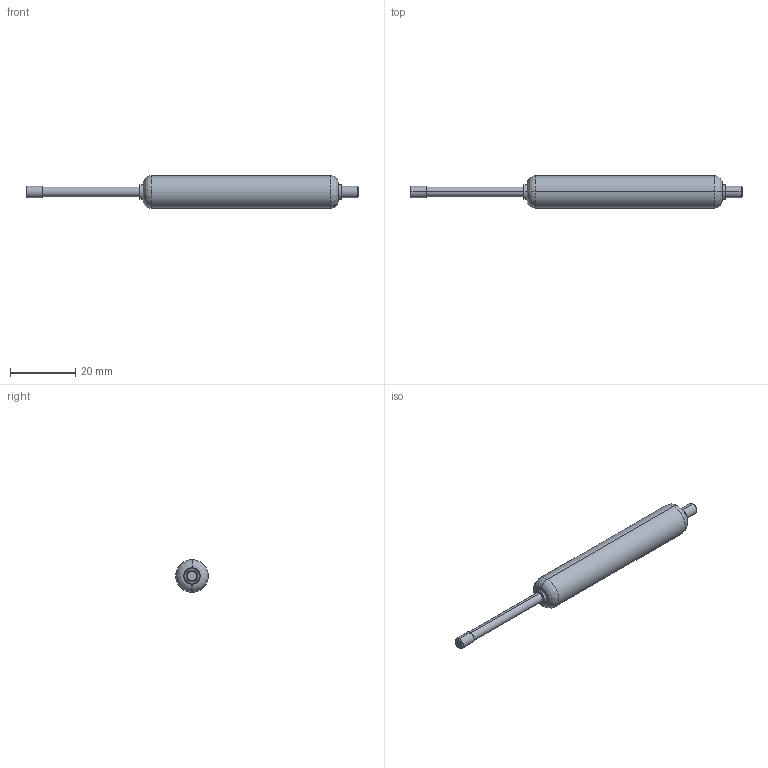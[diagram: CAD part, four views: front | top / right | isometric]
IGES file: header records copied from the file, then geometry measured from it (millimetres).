
Start section: SolidWorks IGES file using analytic representation for surfaces
Bounding box: 102 x 10 x 10 mm (x, y, z)
Surface area: 2391 mm2 (no closed solid volume)
Topology: 0 solids, 0 shells, 27 faces, 464 edges, 464 vertices
Faces by surface type: revolution 16, bspline 11
